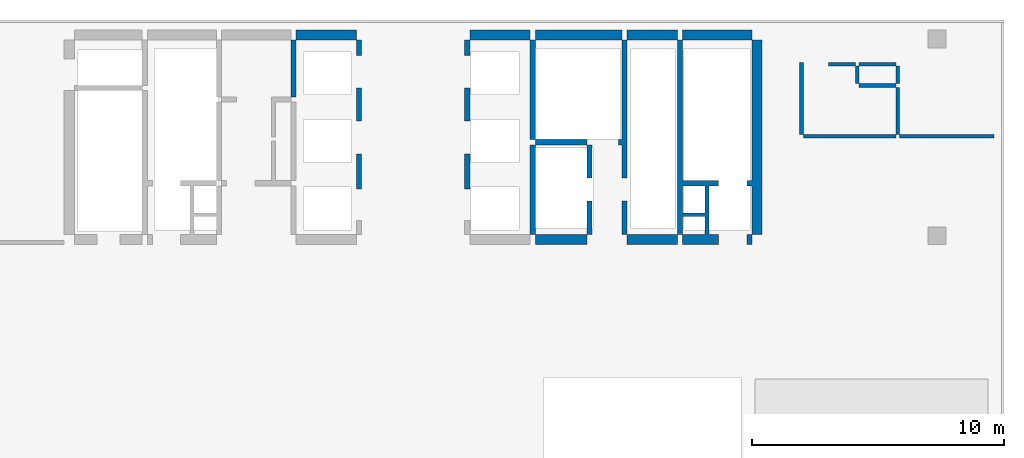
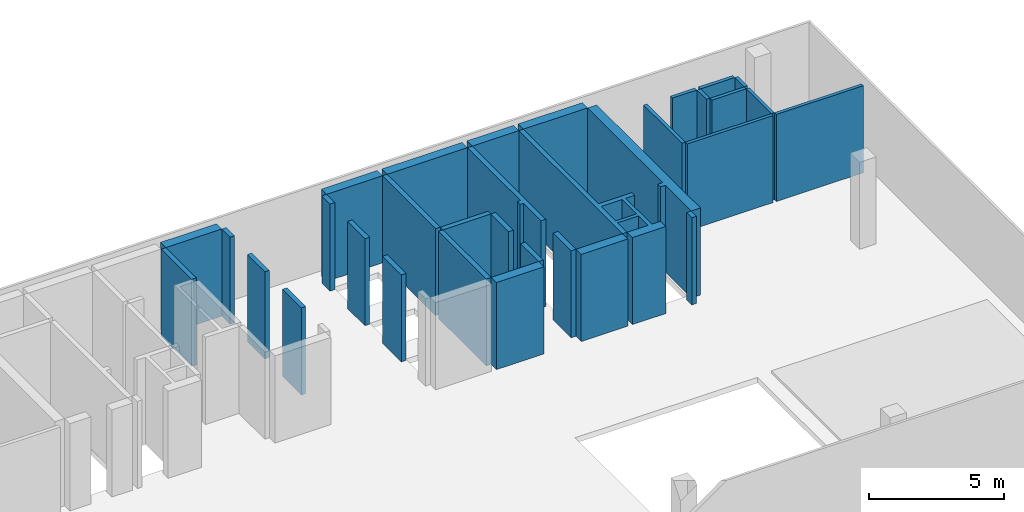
# One storey, part 2 of 4: 33 walls.
"""IFC4 building model written with IfcOpenShell, lengths in millimetres."""

from ifc_helpers import new_model, si_unit, frame, origin, place, context, project, spatial, triangles, element, save


model = new_model("IFC4")

# Units and contexts
model_context = context("Model", 3, precision=0.001, world=origin())
ifc_project = project(units=[si_unit("LENGTHUNIT", "METRE", prefix="MILLI"), si_unit("AREAUNIT", "SQUARE_METRE"), si_unit("VOLUMEUNIT", "CUBIC_METRE")], contexts=[model_context])

# Site, building, storey
site_placement = place(None, origin())
site = spatial("IfcSite", under=ifc_project, at=site_placement, Name="Site", CompositionType="ELEMENT")
building_placement = place(site_placement, origin())
building = spatial("IfcBuilding", under=site, at=building_placement, Name="INNOCEAN", CompositionType="ELEMENT")
storey_placement = place(building_placement, frame((0.0, 0.0, 80600.0)))
storey = spatial("IfcBuildingStorey", under=building, at=storey_placement, Name="F19", CompositionType="ELEMENT", Elevation=80600.0)

# Walls
wall_1_placement = place(storey_placement, origin())
element("IfcWall", 1, at=wall_1_placement, inside=storey, Name="F19_Walls_F19_023", context=model_context, shape_type="Tessellation", body=[
    triangles([(24921.0, 19119.7, 0.0), (24921.0, 20516.8, 0.0), (24921.0, 20516.8, 3950.0), (24921.0, 19119.7, 3950.0), (24730.6, 19119.7, 0.0), (24730.6, 19119.7, 3950.0), (24730.6, 19120.0, 0.0), (24730.6, 19120.0, 3950.0), (24730.0, 19120.0, 0.0), (24730.0, 19120.0, 3950.0), (24730.0, 20515.0, 0.0), (24730.0, 20515.0, 3950.0), (24730.6, 20515.0, 0.0), (24730.6, 20515.0, 3950.0), (24730.6, 20516.8, 3950.0), (24730.6, 20516.8, 0.0)], [[1, 2, 3], [1, 3, 4], [5, 1, 4], [5, 4, 6], [7, 5, 6], [7, 6, 8], [9, 7, 8], [9, 8, 10], [11, 9, 10], [11, 10, 12], [13, 11, 12], [13, 12, 14], [13, 14, 15], [16, 13, 15], [2, 16, 15], [2, 15, 3], [7, 1, 5], [13, 2, 1], [13, 1, 7], [11, 7, 9], [11, 13, 7], [16, 2, 13], [4, 8, 6], [3, 14, 4], [4, 14, 8], [8, 12, 10], [14, 12, 8], [3, 15, 14]], closed=True),
])
wall_2_placement = place(storey_placement, origin())
element("IfcWall", 2, at=wall_2_placement, inside=storey, Name="F19_Walls_F19_027", context=model_context, shape_type="Tessellation", body=[
    triangles([(24730.6, 23120.6, 0.0), (24730.6, 23120.0, 0.0), (24730.6, 23120.0, 3950.0), (24730.6, 23120.6, 3950.0), (24921.0, 23120.6, 0.0), (24921.0, 23120.6, 3950.0), (24921.0, 21825.1, 0.0), (24921.0, 21825.1, 3950.0), (24920.0, 21825.1, 0.0), (24920.0, 21825.1, 3950.0), (24920.0, 21825.0, 0.0), (24920.0, 21825.0, 3950.0), (24730.0, 21825.0, 0.0), (24730.0, 21825.0, 3950.0), (24730.0, 23120.0, 3950.0), (24730.0, 23120.0, 0.0)], [[1, 2, 3], [1, 3, 4], [5, 1, 4], [5, 4, 6], [7, 5, 6], [7, 6, 8], [9, 7, 8], [9, 8, 10], [11, 9, 10], [11, 10, 12], [13, 11, 12], [13, 12, 14], [13, 14, 15], [16, 13, 15], [2, 16, 15], [2, 15, 3], [13, 9, 11], [5, 7, 9], [2, 5, 9], [2, 9, 13], [1, 5, 2], [16, 2, 13], [10, 14, 12], [8, 6, 10], [6, 3, 10], [10, 3, 14], [6, 4, 3], [3, 15, 14]], closed=True),
])
wall_3_placement = place(storey_placement, origin())
element("IfcWall", 3, at=wall_3_placement, inside=storey, Name="F19_Walls_F19_030", context=model_context, shape_type="Tessellation", body=[
    triangles([(22331.6, 22765.0, 0.0), (22331.6, 25025.8, 0.0), (22331.6, 25025.8, 3950.0), (22331.6, 22765.0, 3950.0), (22128.5, 22765.0, 0.0), (22128.5, 22765.0, 3950.0), (22128.5, 25025.8, 0.0), (22128.5, 25025.8, 3950.0)], [[1, 2, 3], [1, 3, 4], [5, 1, 4], [5, 4, 6], [7, 5, 6], [7, 6, 8], [2, 7, 8], [2, 8, 3], [7, 2, 1], [7, 1, 5], [3, 8, 4], [4, 8, 6]], closed=True),
])
wall_4_placement = place(storey_placement, origin())
element("IfcWall", 4, at=wall_4_placement, inside=storey, Name="F19_Walls_F19_031", context=model_context, shape_type="Tessellation", body=[
    triangles([(24921.0, 24416.1, 0.0), (24921.0, 25025.8, 0.0), (24921.0, 25025.8, 3950.0), (24921.0, 24416.1, 3950.0), (24730.6, 24416.1, 0.0), (24730.6, 24416.1, 3950.0), (24730.6, 25025.8, 0.0), (24730.6, 25025.8, 3950.0)], [[1, 2, 3], [1, 3, 4], [5, 1, 4], [5, 4, 6], [7, 5, 6], [7, 6, 8], [2, 7, 8], [2, 8, 3], [7, 2, 1], [7, 1, 5], [3, 8, 4], [4, 8, 6]], closed=True),
])
wall_5_placement = place(storey_placement, origin())
element("IfcWall", 5, at=wall_5_placement, inside=storey, Name="F19_Walls_F19_033", context=model_context, shape_type="Tessellation", body=[
    triangles([(24730.6, 25419.5, 0.0), (22331.6, 25419.5, 0.0), (22331.6, 25419.5, 3950.0), (24730.6, 25419.5, 3950.0), (24730.6, 25025.8, 0.0), (24730.6, 25025.8, 3950.0), (22331.6, 25025.8, 0.0), (22331.6, 25025.8, 3950.0)], [[1, 2, 3], [1, 3, 4], [5, 1, 4], [5, 4, 6], [7, 5, 6], [7, 6, 8], [2, 7, 8], [2, 8, 3], [2, 1, 5], [2, 5, 7], [4, 3, 6], [6, 3, 8]], closed=True),
])
wall_6_placement = place(storey_placement, origin())
element("IfcWall", 6, at=wall_6_placement, inside=storey, Name="F19_Walls_F19_035", context=model_context, shape_type="Tessellation", body=[
    triangles([(33869.8, 17316.1, 0.0), (33869.8, 17316.1, 3950.0), (33869.8, 16922.4, 3950.0), (33869.8, 16922.4, 0.0), (31826.2, 16922.4, 0.0), (31826.2, 16922.4, 3950.0), (31826.2, 17316.1, 3950.0), (31826.2, 17316.1, 0.0)], [[1, 2, 3], [4, 1, 3], [5, 4, 3], [5, 3, 6], [5, 6, 7], [8, 5, 7], [1, 8, 7], [1, 7, 2], [8, 1, 4], [8, 4, 5], [2, 7, 3], [3, 7, 6]], closed=True),
])
wall_7_placement = place(storey_placement, origin())
element("IfcWall", 7, at=wall_7_placement, inside=storey, Name="F19_Walls_F19_036", context=model_context, shape_type="Tessellation", body=[
    triangles([(37474.6, 17316.1, 0.0), (35469.1, 17316.1, 0.0), (35469.1, 17316.1, 3950.0), (37474.6, 17316.1, 3950.0), (37474.6, 16922.4, 3950.0), (37474.6, 16922.4, 0.0), (35469.1, 16922.4, 0.0), (35469.1, 16922.4, 3950.0)], [[1, 2, 3], [1, 3, 4], [1, 4, 5], [6, 1, 5], [7, 6, 5], [7, 5, 8], [7, 8, 3], [2, 7, 3], [2, 1, 6], [2, 6, 7], [4, 3, 5], [5, 3, 8]], closed=True),
])
wall_8_placement = place(storey_placement, origin())
element("IfcWall", 8, at=wall_8_placement, inside=storey, Name="F19_Walls_F19_038", context=model_context, shape_type="Tessellation", body=[
    triangles([(34072.9, 17316.1, 0.0), (34072.9, 18649.7, 0.0), (34072.9, 18649.7, 3950.0), (34072.9, 17316.1, 3950.0), (33869.8, 17316.1, 0.0), (33869.8, 17316.1, 3950.0), (33869.8, 18649.7, 0.0), (33869.8, 18649.7, 3950.0)], [[1, 2, 3], [1, 3, 4], [5, 1, 4], [5, 4, 6], [7, 5, 6], [7, 6, 8], [2, 7, 8], [2, 8, 3], [7, 2, 1], [7, 1, 5], [3, 8, 4], [4, 8, 6]], closed=True),
])
wall_9_placement = place(storey_placement, origin())
element("IfcWall", 9, at=wall_9_placement, inside=storey, Name="F19_Walls_F19_039", context=model_context, shape_type="Tessellation", body=[
    triangles([(35469.1, 18649.7, 0.0), (35266.0, 18649.7, 0.0), (35266.0, 18649.7, 3950.0), (35469.1, 18649.7, 3950.0), (35469.1, 17316.1, 0.0), (35469.1, 17316.1, 3950.0), (35266.0, 17316.1, 0.0), (35266.0, 17316.1, 3950.0)], [[1, 2, 3], [1, 3, 4], [5, 1, 4], [5, 4, 6], [7, 5, 6], [7, 6, 8], [2, 7, 8], [2, 8, 3], [2, 1, 5], [2, 5, 7], [4, 3, 6], [6, 3, 8]], closed=True),
])
wall_10_placement = place(storey_placement, origin())
element("IfcWall", 10, at=wall_10_placement, inside=storey, Name="F19_Walls_F19_040", context=model_context, shape_type="Tessellation", body=[
    triangles([(37474.6, 17316.1, 0.0), (37665.0, 17316.1, 0.0), (37665.0, 17316.1, 3950.0), (37474.6, 17316.1, 3950.0), (37665.0, 16922.4, 0.0), (37665.0, 16922.4, 3950.0), (39099.4, 16922.4, 0.0), (39099.4, 16922.4, 3950.0), (39099.4, 17316.1, 0.0), (39099.4, 17316.1, 3950.0), (38720.0, 17316.1, 0.0), (38720.0, 17316.1, 3950.0), (38720.0, 19245.0, 0.0), (38720.0, 19245.0, 3950.0), (39100.0, 19245.0, 0.0), (39100.0, 19245.0, 3950.0), (39100.0, 19450.0, 0.0), (39100.0, 19450.0, 3950.0), (37665.0, 19450.0, 0.0), (37665.0, 19450.0, 3950.0), (37665.0, 25025.8, 0.0), (37665.0, 25025.8, 3950.0), (37474.6, 25025.8, 0.0), (37474.6, 25025.8, 3950.0), (37474.6, 19449.9, 0.0), (37474.6, 19449.9, 3950.0), (37665.0, 18025.0, 0.0), (37665.0, 18025.0, 3950.0), (38565.0, 18025.0, 0.0), (38565.0, 18025.0, 3950.0), (38565.0, 17316.1, 0.0), (38565.0, 17316.1, 3950.0), (38565.0, 18167.1, 0.0), (37665.0, 18167.1, 0.0), (37665.0, 18167.1, 3950.0), (38565.0, 18167.1, 3950.0), (37665.0, 19245.0, 0.0), (37665.0, 19245.0, 3950.0), (38565.0, 19245.0, 0.0), (38565.0, 19245.0, 3950.0)], [[1, 2, 3], [1, 3, 4], [5, 6, 3], [2, 5, 3], [5, 7, 8], [5, 8, 6], [9, 10, 8], [7, 9, 8], [9, 11, 12], [9, 12, 10], [11, 13, 14], [11, 14, 12], [15, 16, 14], [13, 15, 14], [15, 17, 18], [15, 18, 16], [17, 19, 20], [17, 20, 18], [19, 21, 22], [19, 22, 20], [21, 23, 24], [21, 24, 22], [23, 25, 26], [23, 26, 24], [25, 1, 4], [25, 4, 26], [27, 28, 3], [2, 27, 3], [27, 29, 30], [27, 30, 28], [31, 32, 30], [29, 31, 30], [31, 2, 3], [31, 3, 32], [33, 34, 35], [33, 35, 36], [34, 37, 38], [34, 38, 35], [37, 39, 40], [37, 40, 38], [39, 33, 36], [39, 36, 40], [11, 9, 7], [31, 11, 7], [5, 31, 7], [29, 11, 31], [2, 31, 5], [27, 2, 1], [34, 29, 27], [34, 33, 29], [34, 27, 1], [13, 17, 15], [39, 13, 33], [39, 17, 13], [19, 39, 37], [19, 17, 39], [25, 37, 34], [25, 19, 37], [25, 34, 1], [23, 21, 19], [23, 19, 25], [13, 11, 29], [13, 29, 33], [10, 12, 8], [12, 32, 8], [32, 6, 8], [12, 30, 32], [32, 3, 6], [3, 28, 4], [30, 35, 28], [36, 35, 30], [28, 35, 4], [18, 14, 16], [14, 40, 36], [18, 40, 14], [40, 20, 38], [18, 20, 40], [38, 26, 35], [20, 26, 38], [35, 26, 4], [22, 24, 20], [20, 24, 26], [12, 14, 30], [30, 14, 36]], closed=True),
])
wall_11_placement = place(storey_placement, origin())
element("IfcWall", 11, at=wall_11_placement, inside=storey, Name="F19_Walls_F19_041", context=model_context, shape_type="Tessellation", body=[
    triangles([(31826.2, 20872.5, 0.0), (31826.2, 20872.5, 3950.0), (31826.2, 17316.1, 3950.0), (31826.2, 17316.1, 0.0), (31623.1, 17316.1, 3950.0), (31623.1, 17316.1, 0.0), (31623.1, 20872.5, 3950.0), (31623.1, 20872.5, 0.0)], [[1, 2, 3], [4, 1, 3], [4, 3, 5], [6, 4, 5], [6, 5, 7], [8, 6, 7], [8, 7, 2], [1, 8, 2], [8, 1, 4], [8, 4, 6], [2, 7, 3], [3, 7, 5]], closed=True),
])
wall_12_placement = place(storey_placement, origin())
element("IfcWall", 12, at=wall_12_placement, inside=storey, Name="F19_Walls_F19_042", context=model_context, shape_type="Tessellation", body=[
    triangles([(29224.0, 20516.8, 0.0), (29224.0, 20516.8, 3950.0), (29224.0, 20515.0, 3950.0), (29224.0, 20515.0, 0.0), (29225.0, 20515.0, 0.0), (29225.0, 20515.0, 3950.0), (29225.0, 19120.0, 0.0), (29225.0, 19120.0, 3950.0), (29224.0, 19120.0, 0.0), (29224.0, 19120.0, 3950.0), (29224.0, 19119.7, 0.0), (29224.0, 19119.7, 3950.0), (29020.9, 19119.7, 0.0), (29020.9, 19119.7, 3950.0), (29020.9, 19120.0, 0.0), (29020.9, 19120.0, 3950.0), (29020.0, 19120.0, 0.0), (29020.0, 19120.0, 3950.0), (29020.0, 20515.0, 0.0), (29020.0, 20515.0, 3950.0), (29020.9, 20515.0, 0.0), (29020.9, 20515.0, 3950.0), (29020.9, 20516.8, 3950.0), (29020.9, 20516.8, 0.0)], [[1, 2, 3], [4, 1, 3], [5, 4, 3], [5, 3, 6], [7, 5, 6], [7, 6, 8], [9, 7, 8], [9, 8, 10], [11, 9, 10], [11, 10, 12], [13, 11, 12], [13, 12, 14], [15, 13, 14], [15, 14, 16], [17, 15, 16], [17, 16, 18], [19, 17, 18], [19, 18, 20], [21, 19, 20], [21, 20, 22], [21, 22, 23], [24, 21, 23], [1, 24, 23], [1, 23, 2], [15, 9, 11], [15, 11, 13], [4, 5, 7], [4, 7, 9], [4, 9, 15], [21, 4, 15], [19, 15, 17], [19, 21, 15], [24, 1, 4], [24, 4, 21], [10, 16, 12], [12, 16, 14], [6, 3, 8], [8, 3, 10], [10, 3, 16], [3, 22, 16], [16, 20, 18], [22, 20, 16], [2, 23, 3], [3, 23, 22]], closed=True),
])
wall_13_placement = place(storey_placement, origin())
element("IfcWall", 13, at=wall_13_placement, inside=storey, Name="F19_Walls_F19_043", context=model_context, shape_type="Tessellation", body=[
    triangles([(34072.9, 19551.5, 0.0), (34072.9, 20872.5, 0.0), (34072.9, 20872.5, 3950.0), (34072.9, 19551.5, 3950.0), (33869.8, 19551.5, 0.0), (33869.8, 19551.5, 3950.0), (33869.8, 20872.5, 0.0), (33869.8, 20872.5, 3950.0)], [[1, 2, 3], [1, 3, 4], [5, 1, 4], [5, 4, 6], [7, 5, 6], [7, 6, 8], [2, 7, 8], [2, 8, 3], [7, 2, 1], [7, 1, 5], [3, 8, 4], [4, 8, 6]], closed=True),
])
wall_14_placement = place(storey_placement, origin())
element("IfcWall", 14, at=wall_14_placement, inside=storey, Name="F19_Walls_F19_044", context=model_context, shape_type="Tessellation", body=[
    triangles([(35266.0, 21075.7, 0.0), (35126.4, 21075.7, 0.0), (35126.4, 21075.7, 3950.0), (35266.0, 21075.7, 3950.0), (35266.0, 25025.8, 3950.0), (35266.0, 25025.8, 0.0), (35469.1, 25025.8, 0.0), (35469.1, 25025.8, 3950.0), (35469.1, 21075.7, 3950.0), (35469.1, 21075.7, 0.0), (35469.1, 20872.5, 0.0), (35469.1, 20872.5, 3950.0), (35469.1, 19551.5, 0.0), (35469.1, 19551.5, 3950.0), (35266.0, 19551.5, 0.0), (35266.0, 19551.5, 3950.0), (35266.0, 20872.5, 0.0), (35266.0, 20872.5, 3950.0), (35126.4, 20872.5, 0.0), (35126.4, 20872.5, 3950.0)], [[1, 2, 3], [1, 3, 4], [5, 1, 4], [6, 1, 5], [7, 6, 5], [7, 5, 8], [9, 7, 8], [10, 7, 9], [11, 10, 9], [11, 9, 12], [13, 11, 12], [13, 12, 14], [15, 13, 14], [15, 14, 16], [17, 15, 16], [17, 16, 18], [19, 17, 18], [19, 18, 20], [2, 19, 20], [2, 20, 3], [17, 11, 13], [17, 13, 15], [10, 11, 17], [1, 10, 17], [2, 17, 19], [2, 1, 17], [6, 7, 10], [6, 10, 1], [12, 18, 14], [14, 18, 16], [12, 9, 18], [9, 4, 18], [18, 3, 20], [4, 3, 18], [8, 5, 9], [9, 5, 4]], closed=True),
])
wall_15_placement = place(storey_placement, origin())
element("IfcWall", 15, at=wall_15_placement, inside=storey, Name="F19_Walls_F19_045", context=model_context, shape_type="Tessellation", body=[
    triangles([(33869.8, 21075.7, 0.0), (31826.2, 21075.7, 0.0), (31826.2, 21075.7, 3950.0), (33869.8, 21075.7, 3950.0), (33869.8, 20872.5, 0.0), (33869.8, 20872.5, 3950.0), (31826.2, 20872.5, 0.0), (31826.2, 20872.5, 3950.0)], [[1, 2, 3], [1, 3, 4], [5, 1, 4], [5, 4, 6], [7, 5, 6], [7, 6, 8], [2, 7, 8], [2, 8, 3], [2, 1, 5], [2, 5, 7], [4, 3, 6], [6, 3, 8]], closed=True),
])
wall_16_placement = place(storey_placement, origin())
element("IfcWall", 16, at=wall_16_placement, inside=storey, Name="F19_Walls_F19_046", context=model_context, shape_type="Tessellation", body=[
    triangles([(29225.0, 23120.0, 0.0), (29224.0, 23120.0, 0.0), (29224.0, 23120.0, 3950.0), (29225.0, 23120.0, 3950.0), (29225.0, 21825.0, 3950.0), (29225.0, 21825.0, 0.0), (29020.0, 21825.0, 0.0), (29020.0, 21825.0, 3950.0), (29020.0, 23120.0, 3950.0), (29020.0, 23120.0, 0.0), (29020.9, 23120.0, 0.0), (29020.9, 23120.0, 3950.0), (29020.9, 23120.6, 0.0), (29020.9, 23120.6, 3950.0), (29224.0, 23120.6, 0.0), (29224.0, 23120.6, 3950.0)], [[1, 2, 3], [1, 3, 4], [1, 4, 5], [6, 1, 5], [7, 6, 5], [7, 5, 8], [7, 8, 9], [10, 7, 9], [11, 10, 9], [11, 9, 12], [13, 11, 12], [13, 12, 14], [15, 13, 14], [15, 14, 16], [2, 15, 16], [2, 16, 3], [2, 1, 6], [2, 6, 7], [11, 2, 7], [13, 15, 2], [13, 2, 11], [10, 11, 7], [4, 3, 5], [5, 3, 8], [3, 12, 8], [16, 14, 3], [3, 14, 12], [12, 9, 8]], closed=True),
])
wall_17_placement = place(storey_placement, origin())
element("IfcWall", 17, at=wall_17_placement, inside=storey, Name="F19_Walls_F19_047", context=model_context, shape_type="Tessellation", body=[
    triangles([(31826.2, 21075.7, 3950.0), (31826.2, 25025.8, 0.0), (31826.2, 25025.8, 3950.0), (31826.2, 21075.7, 0.0), (31623.1, 21075.7, 3950.0), (31623.1, 21075.7, 0.0), (31623.1, 25025.8, 3950.0), (31623.1, 25025.8, 0.0)], [[1, 2, 3], [4, 2, 1], [4, 1, 5], [6, 4, 5], [7, 6, 5], [8, 6, 7], [8, 7, 3], [2, 8, 3], [2, 4, 6], [8, 2, 6], [1, 3, 5], [3, 7, 5]], closed=True),
])
wall_18_placement = place(storey_placement, origin())
element("IfcWall", 18, at=wall_18_placement, inside=storey, Name="F19_Walls_F19_048", context=model_context, shape_type="Tessellation", body=[
    triangles([(29224.0, 25025.8, 0.0), (29020.9, 25025.8, 0.0), (29020.9, 25025.8, 3950.0), (29224.0, 25025.8, 3950.0), (29224.0, 24416.1, 0.0), (29224.0, 24416.1, 3950.0), (29020.9, 24416.1, 0.0), (29020.9, 24416.1, 3950.0)], [[1, 2, 3], [1, 3, 4], [5, 1, 4], [5, 4, 6], [7, 5, 6], [7, 6, 8], [2, 7, 8], [2, 8, 3], [2, 1, 5], [2, 5, 7], [4, 3, 6], [6, 3, 8]], closed=True),
])
wall_19_placement = place(storey_placement, origin())
element("IfcWall", 19, at=wall_19_placement, inside=storey, Name="F19_Walls_F19_049", context=model_context, shape_type="Tessellation", body=[
    triangles([(29224.0, 25025.8, 0.0), (31623.1, 25025.8, 0.0), (31623.1, 25025.8, 3950.0), (29224.0, 25025.8, 3950.0), (29224.0, 25419.5, 0.0), (29224.0, 25419.5, 3950.0), (31623.1, 25419.5, 0.0), (31623.1, 25419.5, 3950.0)], [[1, 2, 3], [1, 3, 4], [5, 1, 4], [5, 4, 6], [7, 5, 6], [7, 6, 8], [2, 7, 8], [2, 8, 3], [5, 2, 1], [5, 7, 2], [3, 6, 4], [8, 6, 3]], closed=True),
])
wall_20_placement = place(storey_placement, origin())
element("IfcWall", 20, at=wall_20_placement, inside=storey, Name="F19_Walls_F19_050", context=model_context, shape_type="Tessellation", body=[
    triangles([(35266.0, 25419.5, 0.0), (31826.2, 25419.5, 0.0), (31826.2, 25419.5, 3950.0), (35266.0, 25419.5, 3950.0), (35266.0, 25025.8, 0.0), (35266.0, 25025.8, 3950.0), (31826.2, 25025.8, 0.0), (31826.2, 25025.8, 3950.0)], [[1, 2, 3], [1, 3, 4], [5, 1, 4], [5, 4, 6], [7, 5, 6], [7, 6, 8], [2, 7, 8], [2, 8, 3], [2, 1, 5], [2, 5, 7], [4, 3, 6], [6, 3, 8]], closed=True),
])
wall_21_placement = place(storey_placement, origin())
element("IfcWall", 21, at=wall_21_placement, inside=storey, Name="F19_Walls_F19_051", context=model_context, shape_type="Tessellation", body=[
    triangles([(37474.6, 25025.8, 0.0), (37474.6, 25419.5, 0.0), (37474.6, 25419.5, 3950.0), (37474.6, 25025.8, 3950.0), (35469.1, 25025.8, 0.0), (35469.1, 25025.8, 3950.0), (35469.1, 25419.5, 0.0), (35469.1, 25419.5, 3950.0)], [[1, 2, 3], [1, 3, 4], [5, 1, 4], [5, 4, 6], [7, 5, 6], [7, 6, 8], [2, 7, 8], [2, 8, 3], [7, 2, 1], [7, 1, 5], [3, 8, 4], [4, 8, 6]], closed=True),
])
wall_22_placement = place(storey_placement, origin())
element("IfcWall", 22, at=wall_22_placement, inside=storey, Name="F19_Walls_F19_052", context=model_context, shape_type="Tessellation", body=[
    triangles([(40419.5, 17316.1, 0.0), (40216.4, 17316.1, 0.0), (40216.4, 17316.1, 3950.0), (40419.5, 17316.1, 3950.0), (40419.5, 16922.4, 3950.0), (40419.5, 16922.4, 0.0), (40216.4, 16922.4, 0.0), (40216.4, 16922.4, 3950.0)], [[1, 2, 3], [1, 3, 4], [1, 4, 5], [6, 1, 5], [7, 6, 5], [7, 5, 8], [7, 8, 3], [2, 7, 3], [2, 1, 6], [2, 6, 7], [4, 3, 5], [5, 3, 8]], closed=True),
])
wall_23_placement = place(storey_placement, origin())
element("IfcWall", 23, at=wall_23_placement, inside=storey, Name="F19_Walls_F19_053", context=model_context, shape_type="Tessellation", body=[
    triangles([(40215.0, 19450.0, 0.0), (40215.0, 19450.0, 3950.0), (40419.5, 19450.0, 3950.0), (40419.5, 19450.0, 0.0), (40419.5, 25025.8, 0.0), (40419.5, 25025.8, 3950.0), (40813.0, 25025.8, 0.0), (40813.0, 25025.8, 3950.0), (40813.0, 19449.9, 0.0), (40813.0, 19449.9, 3950.0), (40813.0, 17316.1, 0.0), (40813.0, 17316.1, 3950.0), (40419.5, 17316.1, 0.0), (40419.5, 17316.1, 3950.0), (40419.5, 19245.0, 0.0), (40419.5, 19245.0, 3950.0), (40215.0, 19245.0, 3950.0), (40215.0, 19245.0, 0.0)], [[1, 2, 3], [4, 1, 3], [5, 4, 3], [5, 3, 6], [7, 5, 6], [7, 6, 8], [9, 7, 8], [9, 8, 10], [11, 9, 10], [11, 10, 12], [13, 11, 12], [13, 12, 14], [15, 13, 14], [15, 14, 16], [15, 16, 17], [18, 15, 17], [1, 18, 17], [1, 17, 2], [15, 9, 11], [15, 11, 13], [4, 9, 15], [1, 15, 18], [1, 4, 15], [7, 9, 4], [5, 7, 4], [10, 16, 12], [12, 16, 14], [10, 3, 16], [16, 2, 17], [3, 2, 16], [10, 8, 3], [8, 6, 3]], closed=True),
])
wall_24_placement = place(storey_placement, origin())
element("IfcWall", 24, at=wall_24_placement, inside=storey, Name="F19_Walls_F19_054", context=model_context, shape_type="Tessellation", body=[
    triangles([(46144.1, 21151.9, 0.0), (46144.1, 21291.6, 0.0), (46144.1, 21291.6, 3950.0), (46144.1, 21151.9, 3950.0), (42463.1, 21151.9, 0.0), (42463.1, 21151.9, 3950.0), (42463.1, 21291.6, 0.0), (42463.1, 21291.6, 3950.0)], [[1, 2, 3], [1, 3, 4], [5, 1, 4], [5, 4, 6], [7, 5, 6], [7, 6, 8], [2, 7, 8], [2, 8, 3], [7, 2, 1], [7, 1, 5], [3, 8, 4], [4, 8, 6]], closed=True),
])
wall_25_placement = place(storey_placement, origin())
element("IfcWall", 25, at=wall_25_placement, inside=storey, Name="F19_Walls_F19_055", context=model_context, shape_type="Tessellation", body=[
    triangles([(46283.7, 21151.9, 0.0), (50015.5, 21151.9, 0.0), (50015.5, 21151.9, 3950.0), (46283.7, 21151.9, 3950.0), (46283.7, 21291.6, 0.0), (46283.7, 21291.6, 3950.0), (50015.5, 21291.6, 0.0), (50015.5, 21291.6, 3950.0)], [[1, 2, 3], [1, 3, 4], [5, 1, 4], [5, 4, 6], [7, 5, 6], [7, 6, 8], [2, 7, 8], [2, 8, 3], [5, 2, 1], [5, 7, 2], [3, 6, 4], [8, 6, 3]], closed=True),
])
wall_26_placement = place(storey_placement, origin())
element("IfcWall", 26, at=wall_26_placement, inside=storey, Name="F19_Walls_F19_056", context=model_context, shape_type="Tessellation", body=[
    triangles([(46283.7, 21291.6, 0.0), (46283.7, 23146.0, 0.0), (46283.7, 23146.0, 3950.0), (46283.7, 21291.6, 3950.0), (46144.1, 21291.6, 0.0), (46144.1, 21291.6, 3950.0), (46144.1, 23146.0, 0.0), (46144.1, 23146.0, 3950.0)], [[1, 2, 3], [1, 3, 4], [5, 1, 4], [5, 4, 6], [7, 5, 6], [7, 6, 8], [2, 7, 8], [2, 8, 3], [7, 2, 1], [7, 1, 5], [3, 8, 4], [4, 8, 6]], closed=True),
])
wall_27_placement = place(storey_placement, origin())
element("IfcWall", 27, at=wall_27_placement, inside=storey, Name="F19_Walls_F19_057", context=model_context, shape_type="Tessellation", body=[
    triangles([(42463.1, 24149.4, 0.0), (42310.8, 24149.4, 0.0), (42310.8, 24149.4, 3950.0), (42463.1, 24149.4, 3950.0), (42463.1, 21291.6, 0.0), (42463.1, 21291.6, 3950.0), (42310.8, 21291.6, 0.0), (42310.8, 21291.6, 3950.0)], [[1, 2, 3], [1, 3, 4], [5, 1, 4], [5, 4, 6], [7, 5, 6], [7, 6, 8], [2, 7, 8], [2, 8, 3], [1, 5, 7], [2, 1, 7], [6, 4, 8], [4, 3, 8]], closed=True),
])
wall_28_placement = place(storey_placement, origin())
element("IfcWall", 28, at=wall_28_placement, inside=storey, Name="F19_Walls_F19_058", context=model_context, shape_type="Tessellation", body=[
    triangles([(44671.7, 23298.4, 0.0), (44671.7, 23146.0, 0.0), (44671.7, 23146.0, 3950.0), (44671.7, 23298.4, 3950.0), (46144.1, 23298.4, 0.0), (46144.1, 23298.4, 3950.0), (46144.1, 23146.0, 0.0), (46144.1, 23146.0, 3950.0)], [[1, 2, 3], [1, 3, 4], [5, 1, 4], [5, 4, 6], [7, 5, 6], [7, 6, 8], [2, 7, 8], [2, 8, 3], [2, 5, 7], [1, 5, 2], [6, 3, 8], [6, 4, 3]], closed=True),
])
wall_29_placement = place(storey_placement, origin())
element("IfcWall", 29, at=wall_29_placement, inside=storey, Name="F19_Walls_F19_059", context=model_context, shape_type="Tessellation", body=[
    triangles([(44671.7, 23298.4, 0.0), (44671.7, 23997.0, 0.0), (44671.7, 23997.0, 3950.0), (44671.7, 23298.4, 3950.0), (44519.4, 23298.4, 0.0), (44519.4, 23298.4, 3950.0), (44519.4, 23997.0, 0.0), (44519.4, 23997.0, 3950.0)], [[1, 2, 3], [1, 3, 4], [5, 1, 4], [5, 4, 6], [7, 5, 6], [7, 6, 8], [2, 7, 8], [2, 8, 3], [7, 2, 1], [7, 1, 5], [3, 8, 4], [4, 8, 6]], closed=True),
])
wall_30_placement = place(storey_placement, origin())
element("IfcWall", 30, at=wall_30_placement, inside=storey, Name="F19_Walls_F19_060", context=model_context, shape_type="Tessellation", body=[
    triangles([(46283.7, 23298.4, 0.0), (46283.7, 23997.0, 0.0), (46283.7, 23997.0, 3950.0), (46283.7, 23298.4, 3950.0), (46144.1, 23298.4, 0.0), (46144.1, 23298.4, 3950.0), (46144.1, 23997.0, 0.0), (46144.1, 23997.0, 3950.0)], [[1, 2, 3], [1, 3, 4], [5, 1, 4], [5, 4, 6], [7, 5, 6], [7, 6, 8], [2, 7, 8], [2, 8, 3], [7, 2, 1], [7, 1, 5], [3, 8, 4], [4, 8, 6]], closed=True),
])
wall_31_placement = place(storey_placement, origin())
element("IfcWall", 31, at=wall_31_placement, inside=storey, Name="F19_Walls_F19_061", context=model_context, shape_type="Tessellation", body=[
    triangles([(44519.4, 23997.0, 0.0), (44519.4, 24149.4, 0.0), (44519.4, 24149.4, 3950.0), (44519.4, 23997.0, 3950.0), (43465.8, 23997.0, 0.0), (43465.8, 23997.0, 3950.0), (43465.8, 24149.4, 0.0), (43465.8, 24149.4, 3950.0)], [[1, 2, 3], [1, 3, 4], [5, 1, 4], [5, 4, 6], [7, 5, 6], [7, 6, 8], [2, 7, 8], [2, 8, 3], [5, 2, 1], [7, 2, 5], [3, 6, 4], [3, 8, 6]], closed=True),
])
wall_32_placement = place(storey_placement, origin())
element("IfcWall", 32, at=wall_32_placement, inside=storey, Name="F19_Walls_F19_062", context=model_context, shape_type="Tessellation", body=[
    triangles([(46144.1, 23997.0, 0.0), (46144.1, 24149.4, 0.0), (46144.1, 24149.4, 3950.0), (46144.1, 23997.0, 3950.0), (44671.7, 23997.0, 0.0), (44671.7, 23997.0, 3950.0), (44671.7, 24149.4, 0.0), (44671.7, 24149.4, 3950.0)], [[1, 2, 3], [1, 3, 4], [5, 1, 4], [5, 4, 6], [7, 5, 6], [7, 6, 8], [2, 7, 8], [2, 8, 3], [5, 2, 1], [7, 2, 5], [3, 6, 4], [3, 8, 6]], closed=True),
])
wall_33_placement = place(storey_placement, origin())
element("IfcWall", 33, at=wall_33_placement, inside=storey, Name="F19_Walls_F19_063", context=model_context, shape_type="Tessellation", body=[
    triangles([(40419.5, 25025.8, 0.0), (40419.5, 25419.5, 0.0), (40419.5, 25419.5, 3950.0), (40419.5, 25025.8, 3950.0), (37665.0, 25025.8, 0.0), (37665.0, 25025.8, 3950.0), (37665.0, 25419.5, 0.0), (37665.0, 25419.5, 3950.0)], [[1, 2, 3], [1, 3, 4], [5, 1, 4], [5, 4, 6], [7, 5, 6], [7, 6, 8], [2, 7, 8], [2, 8, 3], [7, 2, 1], [7, 1, 5], [3, 8, 4], [4, 8, 6]], closed=True),
])

save(model, "model.ifc")
